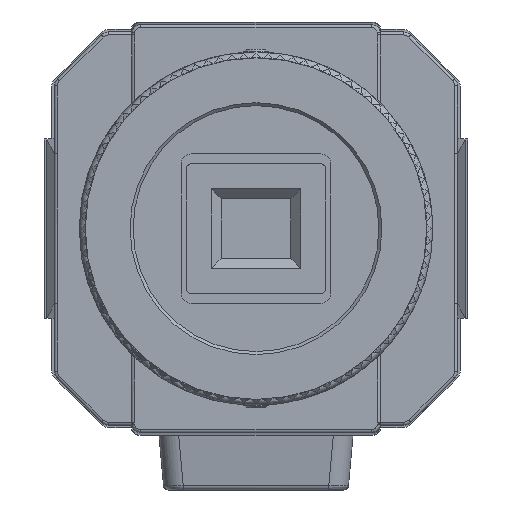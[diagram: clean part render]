
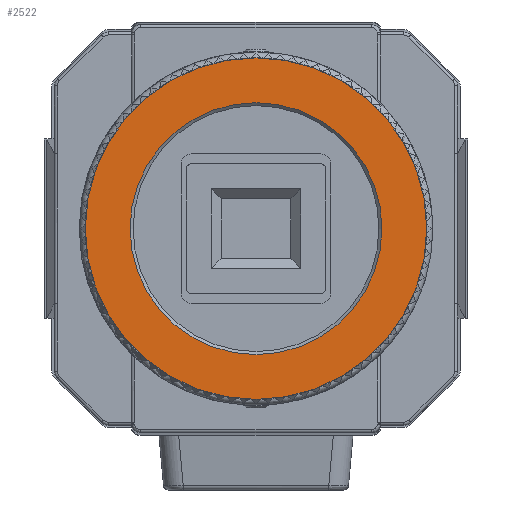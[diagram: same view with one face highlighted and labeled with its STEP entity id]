
A CAD part, front view. The second image highlights one B-rep face of the part: STEP entity #2522.
In plain terms, the highlighted planar face has unit normal (0, -1, 0).
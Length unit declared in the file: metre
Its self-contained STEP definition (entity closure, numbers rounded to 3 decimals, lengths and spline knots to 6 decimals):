
#2522=ADVANCED_FACE('387:13902',(#5544,#5545),#5546,.T.);
#5544=FACE_BOUND('',#10748,.T.);
#5545=FACE_OUTER_BOUND('',#10749,.T.);
#5546=PLANE('',#10750);
#10748=EDGE_LOOP('',(#18040));
#10749=EDGE_LOOP('',(#18041));
#10750=AXIS2_PLACEMENT_3D('',#18042,#18043,#18044);
#18040=ORIENTED_EDGE('',*,*,#22017,.F.);
#18041=ORIENTED_EDGE('',*,*,#23691,.F.);
#18042=CARTESIAN_POINT('',(0.,-0.0322,0.02075));
#18043=DIRECTION('',(0.0,-1.0,0.0));
#18044=DIRECTION('',(1.0,0.0,0.));
#22017=EDGE_CURVE('387:16227',#26033,#26033,#26034,.T.);
#23691=EDGE_CURVE('387:16230',#28404,#28404,#28405,.T.);
#26033=VERTEX_POINT('',#32212);
#26034=CIRCLE('',#32213,0.01265);
#28404=VERTEX_POINT('',#35554);
#28405=CIRCLE('',#35555,0.01715);
#32212=CARTESIAN_POINT('',(-0.01265,-0.0322,0.02075));
#32213=AXIS2_PLACEMENT_3D('',#38819,#38820,#38821);
#35554=CARTESIAN_POINT('',(0.01715,-0.0322,0.02075));
#35555=AXIS2_PLACEMENT_3D('',#40603,#40604,#40605);
#38819=CARTESIAN_POINT('',(0.,-0.0322,0.02075));
#38820=DIRECTION('',(0.0,-1.0,0.0));
#38821=DIRECTION('',(-1.0,0.0,0.));
#40603=CARTESIAN_POINT('',(0.,-0.0322,0.02075));
#40604=DIRECTION('',(0.0,1.0,0.0));
#40605=DIRECTION('',(1.0,-0.0,0.));
